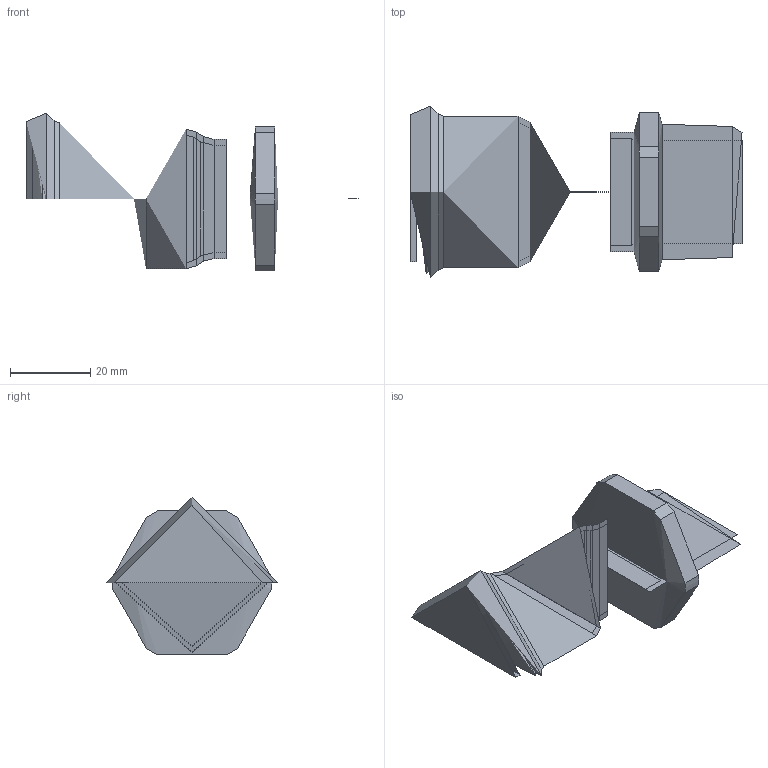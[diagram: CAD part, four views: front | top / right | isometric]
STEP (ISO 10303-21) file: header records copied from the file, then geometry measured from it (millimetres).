
FILE_DESCRIPTION(('FreeCAD Model'),'2;1');
FILE_NAME('Open CASCADE Shape Model','2025-10-20T15:01:28',('Author'),( ''),'Open CASCADE STEP processor 7.8','FreeCAD','Unknown');
FILE_SCHEMA(('AUTOMOTIVE_DESIGN { 1 0 10303 214 1 1 1 1 }'));
Length unit declared in the file: millimetre
Products named in the file (7): Unnamed162; COMPOUND; COMPOUND001; X-Achse; XY-Ebene; COMPOUND002; COMPOUND003
Assembly tree (18 placements, depth 3):
  Unnamed162
    COMPOUND
    COMPOUND001
      COMPOUND
    X-Achse  x6
    XY-Ebene  x6
    COMPOUND002
    COMPOUND003
      COMPOUND002
Bounding box: 83 x 42.94 x 39.47 mm (x, y, z)
Volume: 40290.8 mm3; surface area: 38816.2 mm2
Topology: 4 solids, 4 shells, 92 faces, 286 edges, 198 vertices
Faces by surface type: bspline 92
Entity records: 2280 total; most frequent: CARTESIAN_POINT 1338, ORIENTED_EDGE 280, EDGE_CURVE 140, VERTEX_POINT 99, FACE_BOUND 51, EDGE_LOOP 51, ADVANCED_FACE 46, DIRECTION 39
